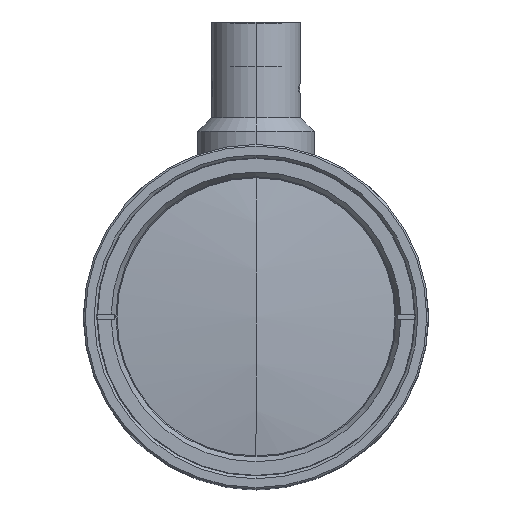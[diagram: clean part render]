
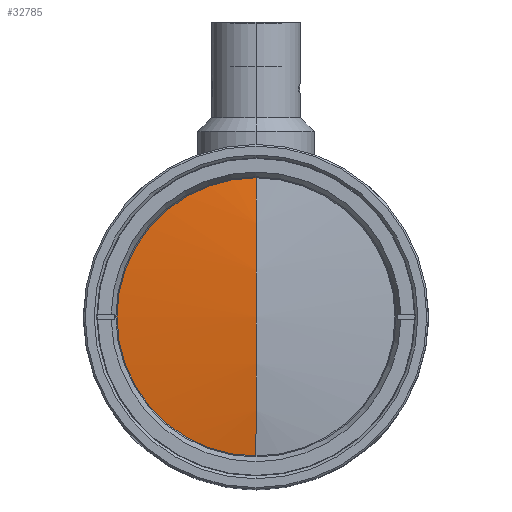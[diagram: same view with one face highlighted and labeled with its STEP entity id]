
A CAD part, top view. The second image highlights one B-rep face of the part: STEP entity #32785.
In plain terms, the highlighted spherical face has radius 143.3 mm.
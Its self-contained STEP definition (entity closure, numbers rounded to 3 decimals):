
#977 = ORIENTED_EDGE ( 'NONE', *, *, #35657, .F. ) ;
#1826 = CARTESIAN_POINT ( 'NONE',  ( 0., 0., 298.983 ) ) ;
#2546 = SPHERICAL_SURFACE ( 'NONE', #31014, 143.3 ) ;
#2743 = FACE_OUTER_BOUND ( 'NONE', #5701, .T. ) ;
#5701 = EDGE_LOOP ( 'NONE', ( #25855, #10066, #27705, #977 ) ) ;
#5814 = DIRECTION ( 'NONE',  ( 1., 0., 0. ) ) ;
#7027 = DIRECTION ( 'NONE',  ( 0., -1., 0. ) ) ;
#7806 = CARTESIAN_POINT ( 'NONE',  ( 0., -25.185, 296.753 ) ) ;
#8996 = DIRECTION ( 'NONE',  ( 0., 0., 1. ) ) ;
#9534 = AXIS2_PLACEMENT_3D ( 'NONE', #24947, #8996, #28506 ) ;
#10066 = ORIENTED_EDGE ( 'NONE', *, *, #25332, .T. ) ;
#11321 = AXIS2_PLACEMENT_3D ( 'NONE', #36200, #32845, #7027 ) ;
#11543 = CIRCLE ( 'NONE', #9534, 25.185 ) ;
#12192 = CARTESIAN_POINT ( 'NONE',  ( 0., 0., 155.683 ) ) ;
#12398 = EDGE_CURVE ( 'NONE', #41378, #30064, #36783, .T. ) ;
#14262 = CARTESIAN_POINT ( 'NONE',  ( 0., 0., 296.753 ) ) ;
#17010 = DIRECTION ( 'NONE',  ( 0., 0., 1. ) ) ;
#17415 = AXIS2_PLACEMENT_3D ( 'NONE', #14262, #17010, #23497 ) ;
#18054 = CARTESIAN_POINT ( 'NONE',  ( -25.185, 0., 296.753 ) ) ;
#20424 = CARTESIAN_POINT ( 'NONE',  ( 0., 25.185, 296.753 ) ) ;
#23497 = DIRECTION ( 'NONE',  ( -1., 0., 0. ) ) ;
#24629 = VERTEX_POINT ( 'NONE', #20424 ) ;
#24914 = CARTESIAN_POINT ( 'NONE',  ( 0., 0., 155.683 ) ) ;
#24947 = CARTESIAN_POINT ( 'NONE',  ( 0., 0., 296.753 ) ) ;
#25010 = DIRECTION ( 'NONE',  ( 0., 1., 0. ) ) ;
#25332 = EDGE_CURVE ( 'NONE', #27208, #41378, #11543, .T. ) ;
#25855 = ORIENTED_EDGE ( 'NONE', *, *, #37616, .T. ) ;
#27208 = VERTEX_POINT ( 'NONE', #18054 ) ;
#27369 = AXIS2_PLACEMENT_3D ( 'NONE', #24914, #5814, #37715 ) ;
#27705 = ORIENTED_EDGE ( 'NONE', *, *, #12398, .T. ) ;
#28506 = DIRECTION ( 'NONE',  ( -1., 0., 0. ) ) ;
#30064 = VERTEX_POINT ( 'NONE', #1826 ) ;
#31014 = AXIS2_PLACEMENT_3D ( 'NONE', #12192, #41151, #25010 ) ;
#32785 = ADVANCED_FACE ( 'NONE', ( #2743 ), #2546, .T. ) ;
#32845 = DIRECTION ( 'NONE',  ( -1., 0., 0. ) ) ;
#35530 = CIRCLE ( 'NONE', #17415, 25.185 ) ;
#35657 = EDGE_CURVE ( 'NONE', #24629, #30064, #38102, .T. ) ;
#36200 = CARTESIAN_POINT ( 'NONE',  ( 0., 0., 155.683 ) ) ;
#36783 = CIRCLE ( 'NONE', #11321, 143.3 ) ;
#37616 = EDGE_CURVE ( 'NONE', #24629, #27208, #35530, .T. ) ;
#37715 = DIRECTION ( 'NONE',  ( 0., 0., -1. ) ) ;
#38102 = CIRCLE ( 'NONE', #27369, 143.3 ) ;
#41151 = DIRECTION ( 'NONE',  ( -1., 0., 0. ) ) ;
#41378 = VERTEX_POINT ( 'NONE', #7806 ) ;
